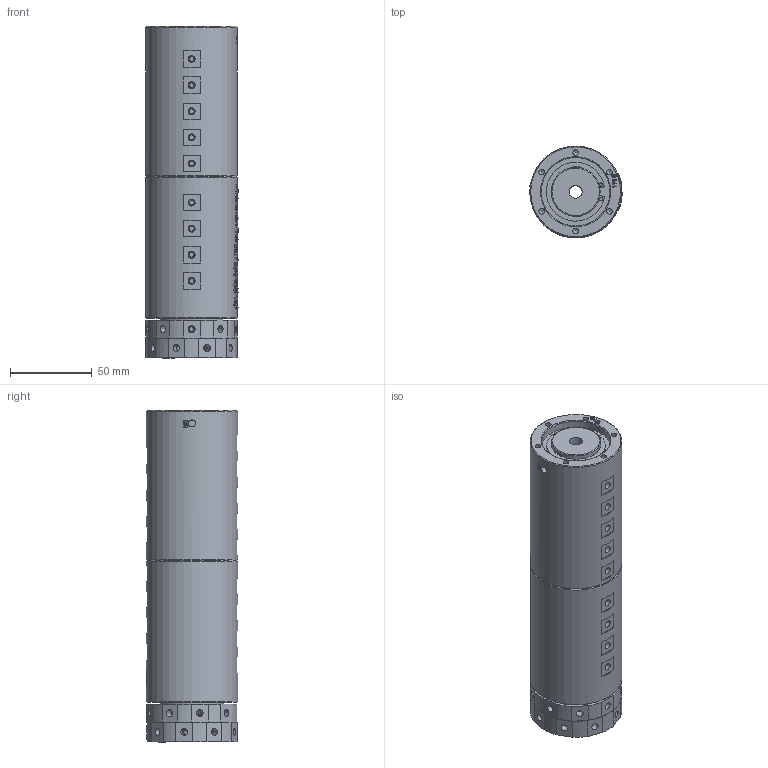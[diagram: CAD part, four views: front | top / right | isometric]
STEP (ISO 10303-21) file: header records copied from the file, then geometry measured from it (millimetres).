
FILE_DESCRIPTION(/* description */ (''),/* implementation_level */ '2;1');
FILE_NAME(/* name */ 'YQ18005-3D模型.stp',/* time_stamp */ '2025-09-05T18:38:59+08:00',/* author */ (''),/* organization */ (''),/* preprocessor_version */ 'ST-DEVELOPER v16.7',/* originating_system */ 'SIEMENS PLM Software NX 12.0',/* authorisation */ '');
FILE_SCHEMA (('AUTOMOTIVE_DESIGN { 1 0 10303 214 3 1 1 1 }'));
Products named in the file (1): AdmiE6DC186D3sqz
Bounding box: 56.54 x 56 x 203.4 mm (x, y, z)
Volume: 475543.5 mm3; surface area: 62378 mm2
Topology: 1 solids, 1 shells, 1513 faces, 3971 edges, 2648 vertices
Faces by surface type: extrusion 650, plane 574, cylinder 219, bspline 51, cone 19
Full cylindrical faces by diameter (mm): 2 x2, 3 x54, 3.4 x12, 4 x18, 4.2 x56, 8 x1, 28.6 x1, 30 x1, 35 x1, 39 x1, 42 x1, 56 x2
Entity records: 55739 total; most frequent: CARTESIAN_POINT 24223, ORIENTED_EDGE 7374, DIRECTION 4046, EDGE_CURVE 3687, B_SPLINE_CURVE_WITH_KNOTS 3133, VERTEX_POINT 2557, EDGE_LOOP 1890, ADVANCED_FACE 1507
